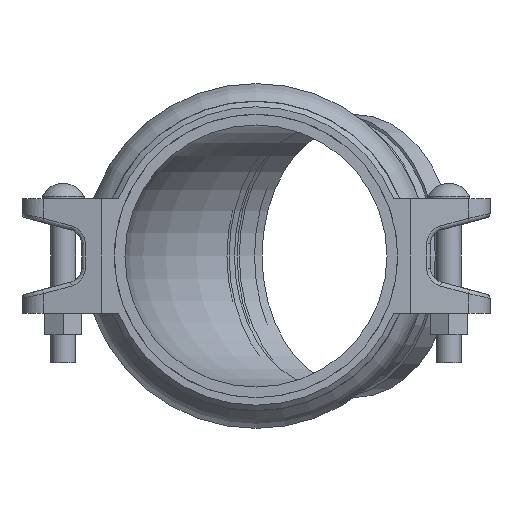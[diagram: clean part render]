
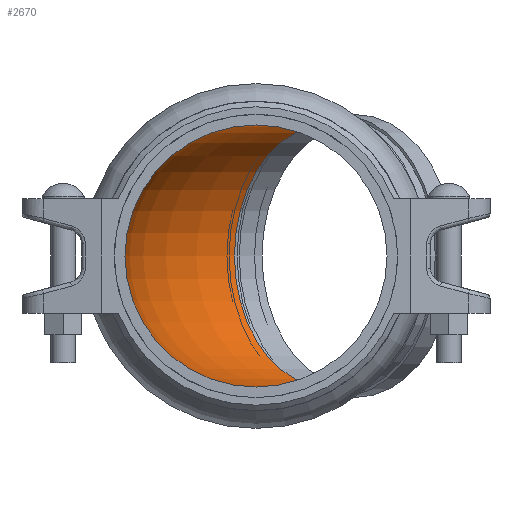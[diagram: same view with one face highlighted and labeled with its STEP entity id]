
A CAD part, left-side view. The second image highlights one B-rep face of the part: STEP entity #2670.
In plain terms, the highlighted toroidal (fillet/blend) face has major radius 187.765 mm and minor radius 101.359 mm.
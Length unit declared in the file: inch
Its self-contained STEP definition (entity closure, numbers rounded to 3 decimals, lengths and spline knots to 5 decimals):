
#122=TOROIDAL_SURFACE('',#2932,7.39232,3.9905);
#565=FACE_OUTER_BOUND('',#718,.T.);
#718=EDGE_LOOP('',(#1702,#1703,#1704,#1705,#1706,#1707));
#897=CIRCLE('',#2933,3.9905);
#898=CIRCLE('',#2934,3.9905);
#899=CIRCLE('',#2935,3.40182);
#900=CIRCLE('',#2936,3.9905);
#901=CIRCLE('',#2937,3.9905);
#1043=VERTEX_POINT('',#4100);
#1044=VERTEX_POINT('',#4101);
#1045=VERTEX_POINT('',#4104);
#1046=VERTEX_POINT('',#4106);
#1305=EDGE_CURVE('',#1043,#1044,#897,.T.);
#1306=EDGE_CURVE('',#1044,#1043,#898,.T.);
#1307=EDGE_CURVE('',#1043,#1045,#899,.T.);
#1308=EDGE_CURVE('',#1045,#1046,#900,.T.);
#1309=EDGE_CURVE('',#1046,#1045,#901,.T.);
#1702=ORIENTED_EDGE('',*,*,#1305,.T.);
#1703=ORIENTED_EDGE('',*,*,#1306,.T.);
#1704=ORIENTED_EDGE('',*,*,#1307,.T.);
#1705=ORIENTED_EDGE('',*,*,#1308,.T.);
#1706=ORIENTED_EDGE('',*,*,#1309,.T.);
#1707=ORIENTED_EDGE('',*,*,#1307,.F.);
#2670=ADVANCED_FACE('',(#565),#122,.F.);
#2932=AXIS2_PLACEMENT_3D('',#4099,#3282,#3283);
#2933=AXIS2_PLACEMENT_3D('',#4102,#3284,#3285);
#2934=AXIS2_PLACEMENT_3D('',#4103,#3286,#3287);
#2935=AXIS2_PLACEMENT_3D('',#4105,#3288,#3289);
#2936=AXIS2_PLACEMENT_3D('',#4107,#3290,#3291);
#2937=AXIS2_PLACEMENT_3D('',#4108,#3292,#3293);
#3282=DIRECTION('center_axis',(0.,0.,-1.));
#3283=DIRECTION('ref_axis',(-1.,0.,0.));
#3284=DIRECTION('center_axis',(0.,-1.,0.));
#3285=DIRECTION('ref_axis',(1.,0.,0.));
#3286=DIRECTION('center_axis',(0.,-1.,0.));
#3287=DIRECTION('ref_axis',(1.,0.,0.));
#3288=DIRECTION('center_axis',(0.,0.,-1.));
#3289=DIRECTION('ref_axis',(-1.,0.,0.));
#3290=DIRECTION('center_axis',(0.707,0.707,0.));
#3291=DIRECTION('ref_axis',(0.707,-0.707,0.));
#3292=DIRECTION('center_axis',(0.707,0.707,0.));
#3293=DIRECTION('ref_axis',(0.707,-0.707,0.));
#4099=CARTESIAN_POINT('Origin',(7.39232,1.188,0.));
#4100=CARTESIAN_POINT('',(3.9905,1.188,0.));
#4101=CARTESIAN_POINT('',(-3.9905,1.188,0.));
#4102=CARTESIAN_POINT('Origin',(0.,1.188,0.));
#4103=CARTESIAN_POINT('Origin',(0.,1.188,0.));
#4104=CARTESIAN_POINT('',(4.98687,3.59345,0.));
#4105=CARTESIAN_POINT('Origin',(7.39232,1.188,0.));
#4106=CARTESIAN_POINT('',(-0.65655,9.23687,0.));
#4107=CARTESIAN_POINT('Origin',(2.16516,6.41516,0.));
#4108=CARTESIAN_POINT('Origin',(2.16516,6.41516,0.));
